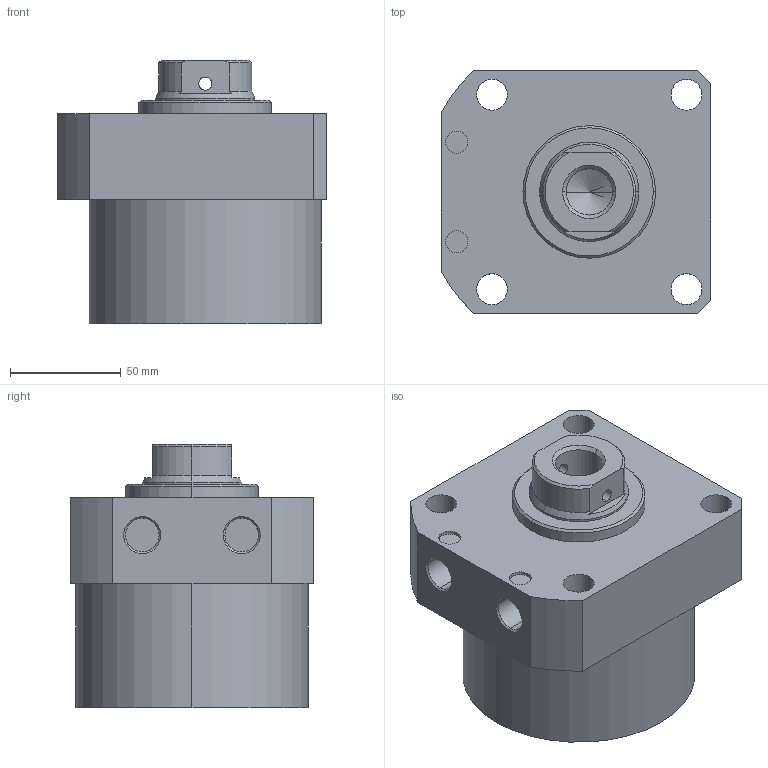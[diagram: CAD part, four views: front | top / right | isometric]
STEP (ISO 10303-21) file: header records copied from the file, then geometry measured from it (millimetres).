
FILE_DESCRIPTION (( 'STEP AP203' ), '1' );
FILE_NAME ('CLLR-105CB-035.STEP', '2019-12-19T01:42:27', ( '' ), ( '' ), 'SwSTEP 2.0', 'SolidWorks 2015', '' );
FILE_SCHEMA (( 'CONFIG_CONTROL_DESIGN' ));
Length unit declared in the file: millimetre
Products named in the file (1): CLLR-105CB-035
Bounding box: 122 x 110 x 119 mm (x, y, z)
Volume: 986982.3 mm3; surface area: 76427.5 mm2
Topology: 1 solids, 1 shells, 67 faces, 160 edges, 101 vertices
Faces by surface type: cylinder 33, plane 19, cone 15
Entity records: 2165 total; most frequent: CARTESIAN_POINT 471, DIRECTION 358, ORIENTED_EDGE 316, EDGE_CURVE 158, AXIS2_PLACEMENT_3D 144, VERTEX_POINT 101, EDGE_LOOP 87, CIRCLE 76
